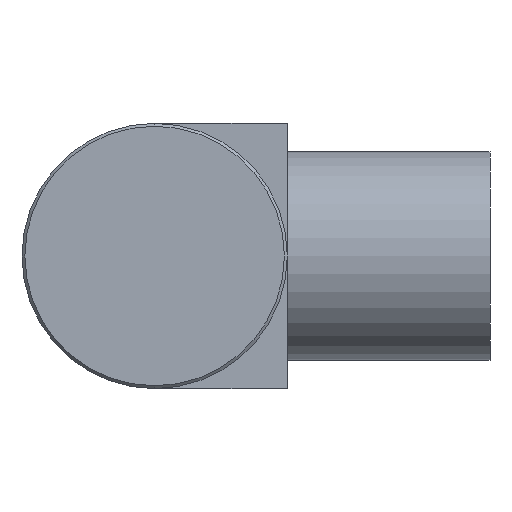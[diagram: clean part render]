
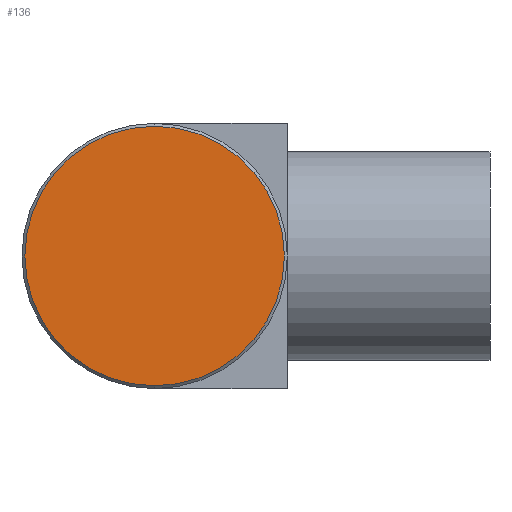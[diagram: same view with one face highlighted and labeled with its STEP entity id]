
A CAD part, left-side view. The second image highlights one B-rep face of the part: STEP entity #136.
In plain terms, the highlighted planar face has unit normal (-1, 0, 0).
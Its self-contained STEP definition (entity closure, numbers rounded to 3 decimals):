
#43 = DIRECTION ( 'NONE',  ( 0., 0., -1. ) ) ;
#51 = DIRECTION ( 'NONE',  ( -1., 0., 0. ) ) ;
#62 = EDGE_CURVE ( 'NONE', #288, #1078, #106, .T. ) ;
#106 = CIRCLE ( 'NONE', #481, 13.7 ) ;
#136 = ADVANCED_FACE ( 'NONE', ( #263 ), #1060, .F. ) ;
#172 = CIRCLE ( 'NONE', #478, 13.7 ) ;
#178 = ORIENTED_EDGE ( 'NONE', *, *, #594, .T. ) ;
#214 = DIRECTION ( 'NONE',  ( 1., 0., 0. ) ) ;
#220 = DIRECTION ( 'NONE',  ( 0., 0., 1. ) ) ;
#263 = FACE_OUTER_BOUND ( 'NONE', #545, .T. ) ;
#287 = DIRECTION ( 'NONE',  ( -1., 0., 0. ) ) ;
#288 = VERTEX_POINT ( 'NONE', #570 ) ;
#368 = DIRECTION ( 'NONE',  ( 0., 0., 1. ) ) ;
#477 = CARTESIAN_POINT ( 'NONE',  ( 0., 0., 0. ) ) ;
#478 = AXIS2_PLACEMENT_3D ( 'NONE', #791, #287, #368 ) ;
#481 = AXIS2_PLACEMENT_3D ( 'NONE', #477, #51, #220 ) ;
#545 = EDGE_LOOP ( 'NONE', ( #178, #927 ) ) ;
#570 = CARTESIAN_POINT ( 'NONE',  ( 0., 0., 13.7 ) ) ;
#594 = EDGE_CURVE ( 'NONE', #1078, #288, #172, .T. ) ;
#636 = CARTESIAN_POINT ( 'NONE',  ( 0., 0., 0. ) ) ;
#713 = AXIS2_PLACEMENT_3D ( 'NONE', #636, #214, #43 ) ;
#758 = CARTESIAN_POINT ( 'NONE',  ( 0., 0., -13.7 ) ) ;
#791 = CARTESIAN_POINT ( 'NONE',  ( 0., 0., 0. ) ) ;
#927 = ORIENTED_EDGE ( 'NONE', *, *, #62, .T. ) ;
#1060 = PLANE ( 'NONE',  #713 ) ;
#1078 = VERTEX_POINT ( 'NONE', #758 ) ;
